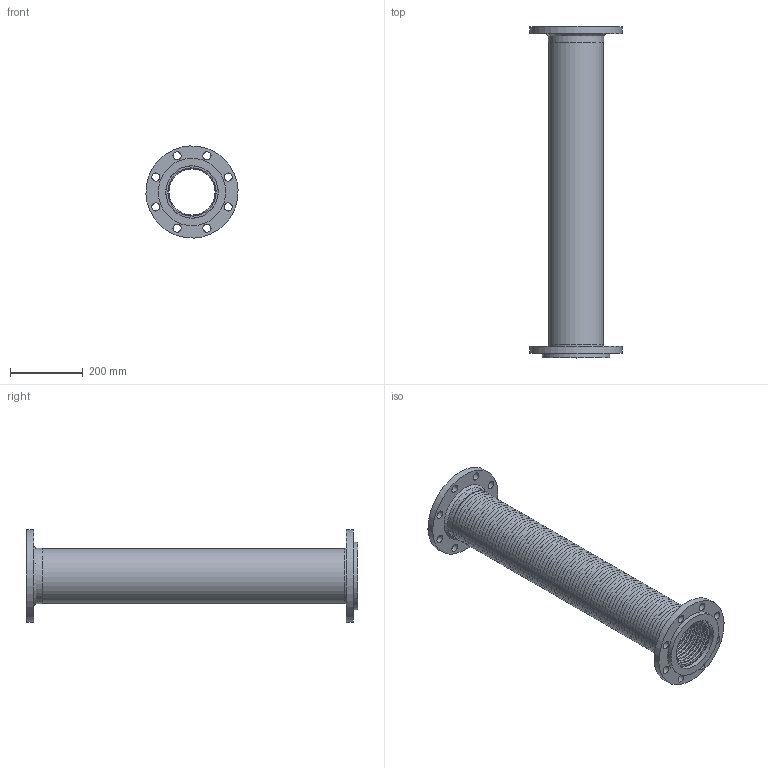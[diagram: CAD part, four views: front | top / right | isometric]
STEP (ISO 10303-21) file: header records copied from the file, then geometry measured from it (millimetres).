
FILE_DESCRIPTION((''),'2;1');
FILE_NAME('C:\REVIT SHARED FILES\STP\FFL5x36ASA150.stp','2013-06-14T19:07:14',('rramoutar'),(''),'Autodesk Inventor 2012','Autodesk Inventor 2012','');
FILE_SCHEMA(('AUTOMOTIVE_DESIGN { 1 0 10303 214 1 1 1 1 }'));
Length unit declared in the file: inch
Products named in the file (8): FFL 5x36 Per A-30310-3; FFL 5x36 Per A-30310-3_Welds; A-30303-1 FLOATING FLANGE 5 inch 150 #; A-30302-2 FIXED FLANGE 5 inch 150 #; A-30840-1 VFL 5.0 inch WELDED WASHER; A-29781-7 5.0 inch braid collar; FFL 5x36 Stainless Braid; FFL 5x36 Stainless Hose
Assembly tree (8 placements, depth 2):
  FFL 5x36 Per A-30310-3
    FFL 5x36 Per A-30310-3_Welds
    A-30303-1 FLOATING FLANGE 5 inch 150 #
    A-30302-2 FIXED FLANGE 5 inch 150 #
    A-30840-1 VFL 5.0 inch WELDED WASHER
    A-29781-7 5.0 inch braid collar  x2
    FFL 5x36 Stainless Braid
    FFL 5x36 Stainless Hose
Bounding box: 253.76 x 914.4 x 253.76 mm (x, y, z)
Volume: 1949516.2 mm3; surface area: 3144169 mm2
Topology: 9 solids, 9 shells, 701 faces, 1098 edges, 738 vertices
Faces by surface type: plane 341, torus 326, cylinder 31, bspline 2, cone 1
Full cylindrical faces by diameter (mm): 22.225 x16, 142.875 x1, 144.463 x1, 150.114 x3, 151.13 x1, 152.495 x4, 158.75 x1, 185.738 x2, 254 x2
Entity records: 14887 total; most frequent: DIRECTION 2840, CARTESIAN_POINT 2543, ORIENTED_EDGE 1438, EDGE_LOOP 1424, AXIS2_PLACEMENT_3D 1420, FACE_BOUND 727, EDGE_CURVE 719, VERTEX_POINT 717
